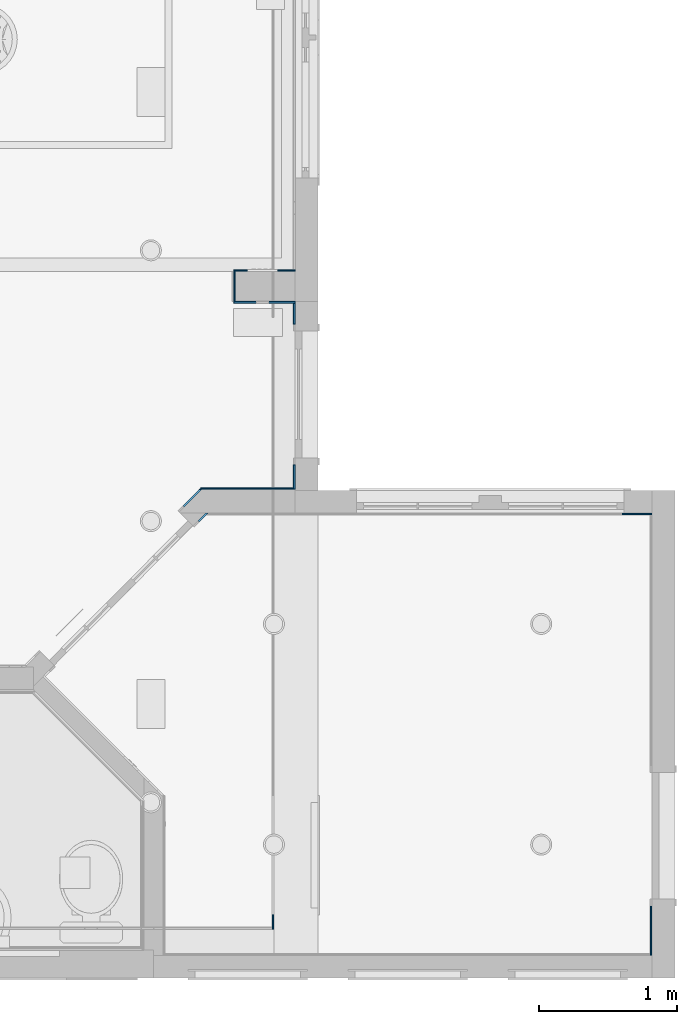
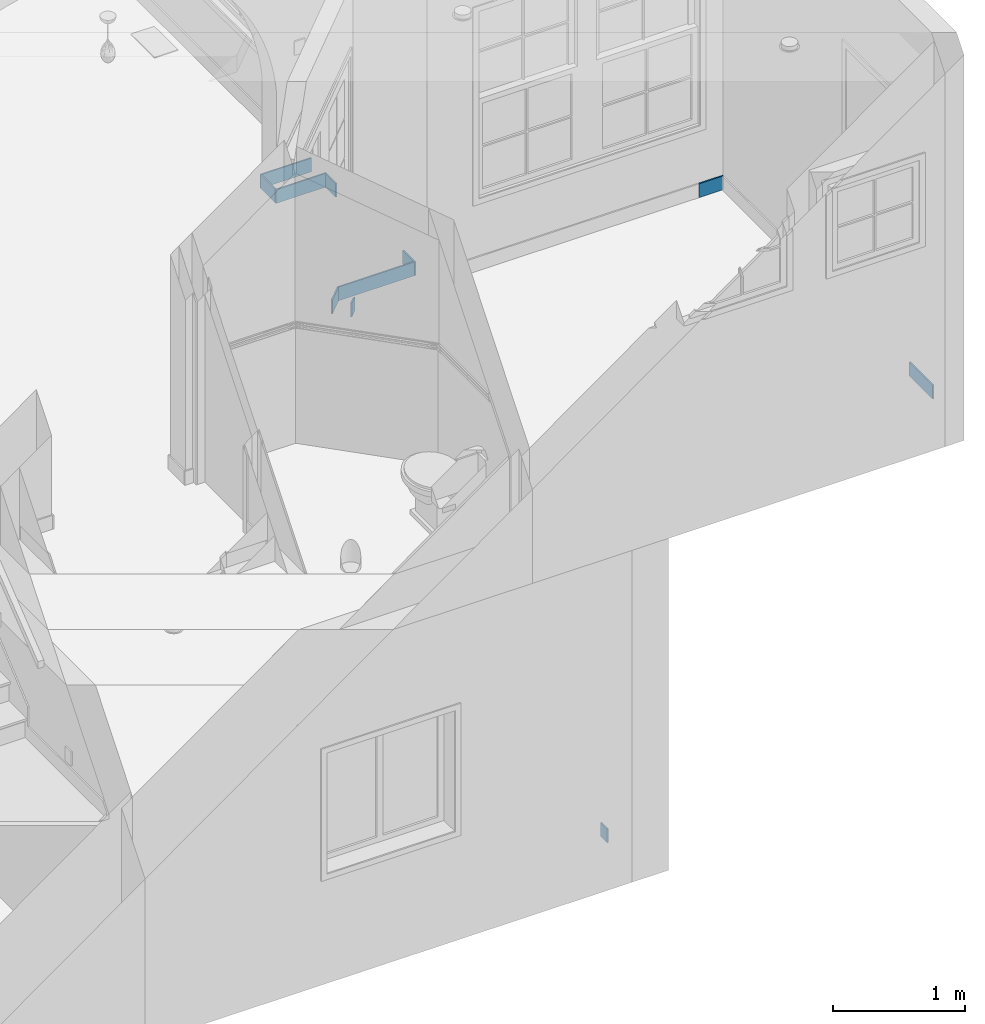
# One storey, part 29 of 81: 11 walls.
"""IFC2X3 building model written with IfcOpenShell, lengths in feet."""

import ifcopenshell
import ifcopenshell.guid

model = None  # the IFC model being written
_history = None  # IfcOwnerHistory: only IFC2X3 demands one
_inside = {}  # id of a spatial element -> (the spatial element, [elements in it])
_under = {}  # id of a project, library or spatial element -> (it, [spatial elements below it])
_declared = {}  # id of a project -> (the project, [libraries it declares])
_typed = {}  # id of a type object -> (the type object, [elements of that type])
_made_of = {}  # id of a material, layer set ... -> (it, [elements and type objects made of it])


def new_model(schema):
    """Start an empty IFC model of exactly this schema.

    Asked for "IFC4X3", IfcOpenShell would pick the latest addendum, in which some entities
    have other attributes; the version numbers below select the first issue.
    IFC2X3 requires an IfcOwnerHistory on every rooted entity: one is made here for all.
    """
    global model, _history
    if schema == "IFC4X3":
        model = ifcopenshell.file(schema_version=(4, 3, 0, 0))
    else:
        model = ifcopenshell.file(schema=schema)
    _inside.clear()
    _under.clear()
    _declared.clear()
    _typed.clear()
    _made_of.clear()
    _history = None
    if model.schema == "IFC2X3":
        org = make("IfcOrganization", Name="unknown")
        user = make(
            "IfcPersonAndOrganization",
            ThePerson=make("IfcPerson", FamilyName="unknown"),
            TheOrganization=org,
        )
        app = make(
            "IfcApplication",
            ApplicationDeveloper=org,
            Version="unknown",
            ApplicationFullName="unknown",
            ApplicationIdentifier="unknown",
        )
        _history = make(
            "IfcOwnerHistory",
            OwningUser=user,
            OwningApplication=app,
            ChangeAction="ADDED",
            CreationDate=0,
        )
    return model


def make(cls, **values):
    """One entity of the class cls with the attributes given. An attribute that is None is left unset."""
    return model.create_entity(
        cls, **{name: value for name, value in values.items() if value is not None}
    )


def entity(cls, *values):
    """Any entity or typed value of the class cls, its attributes in the order of the schema. None: left unset."""
    e = model.create_entity(cls)
    for i, value in enumerate(values):
        if value is not None:
            e[i] = value
    return e


def rooted(cls, **values):
    """An entity with a GlobalId (a new one), such as an element, a storey or a relation."""
    return make(cls, GlobalId=ifcopenshell.guid.new(), OwnerHistory=_history, **values)


def si_unit(unit_type, name, prefix=None):
    """IfcSIUnit, for example si_unit("LENGTHUNIT", "METRE", prefix="MILLI")."""
    return make("IfcSIUnit", UnitType=unit_type, Prefix=prefix, Name=name)


def converted_unit(unit_type, name, factor, base, dimensions=None, offset=None):
    """IfcConversionBasedUnit, such as the inch: factor (a typed value) times the base unit."""
    return make(
        "IfcConversionBasedUnit"
        if offset is None
        else "IfcConversionBasedUnitWithOffset",
        ConversionOffset=offset,
        Dimensions=None
        if dimensions is None
        else entity("IfcDimensionalExponents", *dimensions),
        UnitType=unit_type,
        Name=name,
        ConversionFactor=make(
            "IfcMeasureWithUnit", ValueComponent=factor, UnitComponent=base
        ),
    )


def derived_unit(unit_type, elements):
    """IfcDerivedUnit: a product of units, each with its exponent."""
    return make(
        "IfcDerivedUnit",
        Elements=[
            make("IfcDerivedUnitElement", Unit=unit, Exponent=power)
            for unit, power in elements
        ],
        UnitType=unit_type,
    )


def assignment(units):
    """IfcUnitAssignment: the units of a project."""
    return None if units is None else make("IfcUnitAssignment", Units=units)


def point(xyz):
    """IfcCartesianPoint."""
    return None if xyz is None else make("IfcCartesianPoint", Coordinates=xyz)


def direction(xyz):
    """IfcDirection."""
    return None if xyz is None else make("IfcDirection", DirectionRatios=xyz)


def frame(location, z_axis=None, x_axis=None):
    """IfcAxis2Placement3D, a coordinate frame: its origin and axes. An axis left out is left unset."""
    return make(
        "IfcAxis2Placement3D",
        Location=point(location),
        Axis=direction(z_axis),
        RefDirection=direction(x_axis),
    )


def frame_2d(location, x_axis=None):
    """IfcAxis2Placement2D, a coordinate frame in the plane: its origin and x axis."""
    return make(
        "IfcAxis2Placement2D", Location=point(location), RefDirection=direction(x_axis)
    )


def origin():
    """The frame at (0, 0, 0) with its axes left unset."""
    return frame((0.0, 0.0, 0.0))


def place(relative_to, where):
    """IfcLocalPlacement: puts the frame where relative to a parent placement (None: the world)."""
    return make(
        "IfcLocalPlacement", PlacementRelTo=relative_to, RelativePlacement=where
    )


def context(
    kind, dimensions, precision=None, world=None, true_north=None, identifier=None
):
    """IfcGeometricRepresentationContext, for example the 3D "Model" context."""
    return make(
        "IfcGeometricRepresentationContext",
        ContextIdentifier=identifier,
        ContextType=kind,
        CoordinateSpaceDimension=dimensions,
        Precision=precision,
        WorldCoordinateSystem=world,
        TrueNorth=true_north,
    )


def subcontext(parent, identifier, kind, view, scale=None):
    """IfcGeometricRepresentationSubContext, for example "Body" below "Model"."""
    return make(
        "IfcGeometricRepresentationSubContext",
        ContextIdentifier=identifier,
        ContextType=kind,
        ParentContext=parent,
        TargetScale=scale,
        TargetView=view,
    )


def project(units=None, contexts=None):
    """IfcProject with its units and contexts."""
    return rooted(
        "IfcProject",
        Name="project",
        RepresentationContexts=contexts,
        UnitsInContext=assignment(units),
    )


def spatial(cls, under=None, at=None, **own):
    """A site, building, storey or space (cls), placed at a placement, below another one or the project."""
    s = rooted(cls, ObjectPlacement=at, **own)
    if under is not None:
        _under.setdefault(under.id(), (under, []))[1].append(s)
    return s


def polyline(points):
    """IfcPolyline through the points."""
    return make("IfcPolyline", Points=[point(p) for p in points])


def profile(cls, at=None, kind="AREA", **sizes):
    """A parametric profile (cls). Its sizes go by their IFC names, for example OverallWidth=200.0."""
    return make(cls, ProfileType=kind, Position=at, **sizes)


def rectangle(**sizes):
    """IfcRectangleProfileDef."""
    return profile("IfcRectangleProfileDef", **sizes)


def outline(outer, holes=None, kind="AREA"):
    """IfcArbitraryClosedProfileDef: a profile drawn as a closed curve; with holes, ...WithVoids."""
    if holes is None:
        return make("IfcArbitraryClosedProfileDef", ProfileType=kind, OuterCurve=outer)
    return make(
        "IfcArbitraryProfileDefWithVoids",
        ProfileType=kind,
        OuterCurve=outer,
        InnerCurves=holes,
    )


def extrude(swept, where, along, depth):
    """IfcExtrudedAreaSolid: the profile swept, set in the frame where, extruded along a direction by depth."""
    return make(
        "IfcExtrudedAreaSolid",
        SweptArea=swept,
        Position=where,
        ExtrudedDirection=direction(along),
        Depth=depth,
    )


def shape(context_of_items, identifier, shape_type, items):
    """IfcShapeRepresentation: the items that make up one representation, for example the "Body"."""
    return make(
        "IfcShapeRepresentation",
        ContextOfItems=context_of_items,
        RepresentationIdentifier=identifier,
        RepresentationType=shape_type,
        Items=items,
    )


def material(Name=None, Category=None):
    """IfcMaterial."""
    return make("IfcMaterial", Name=Name, Category=Category)


def layer(
    of_material, thickness, ventilated=None, Name=None, Category=None, Priority=None
):
    """IfcMaterialLayer: one layer of a wall or slab, of a material (None: an air gap)."""
    return make(
        "IfcMaterialLayer",
        Material=of_material,
        LayerThickness=thickness,
        IsVentilated=ventilated,
        Name=Name,
        Category=Category,
        Priority=Priority,
    )


def layer_set(layers, Name=None):
    """IfcMaterialLayerSet."""
    return make("IfcMaterialLayerSet", MaterialLayers=layers, LayerSetName=Name)


def layer_usage(for_layer_set, set_direction, sense, offset, extent=None):
    """IfcMaterialLayerSetUsage: how a layer set lies in its element."""
    return make(
        "IfcMaterialLayerSetUsage",
        ForLayerSet=for_layer_set,
        LayerSetDirection=set_direction,
        DirectionSense=sense,
        OffsetFromReferenceLine=offset,
        ReferenceExtent=extent,
    )


def made_of(thing, what):
    """Note that an element or type object is made of a material, layer set ...; save() writes the relation."""
    if what is not None:
        _made_of.setdefault(what.id(), (what, []))[1].append(thing)
    return thing


def type_object(cls, material=None, **own):
    """A type object (cls), such as IfcWallType, which elements share."""
    return made_of(rooted(cls, **own), material)


def element(
    cls,
    number,
    at=None,
    inside=None,
    cuts=None,
    type_object=None,
    material=None,
    context=None,
    identifier="Body",
    shape_type=None,
    held_by="IfcProductDefinitionShape",
    body=None,
    shapes=None,
    **own,
):
    """One element of the class cls, such as IfcWall. Its Tag is "e" and its number.

    at: its placement. inside: the storey or other place that contains it. cuts: it is an
    opening in that element (IfcRelVoidsElement). A single representation is given by context,
    identifier, shape_type and body (its items); several are given by shapes. held_by: the class
    of the entity that holds the representations. save() writes the other relations.
    """
    e = rooted(cls, Tag="e%d" % number, ObjectPlacement=at, **own)
    if body is not None:
        shapes = [shape(context, identifier, shape_type, body)]
    if shapes is not None:
        e.Representation = make(held_by, Representations=shapes)
    if inside is not None:
        _inside.setdefault(inside.id(), (inside, []))[1].append(e)
    if cuts is not None:
        rooted(
            "IfcRelVoidsElement", RelatingBuildingElement=cuts, RelatedOpeningElement=e
        )
    if type_object is not None:
        _typed.setdefault(type_object.id(), (type_object, []))[1].append(e)
    return made_of(e, material)


def aggregate(whole, parts):
    """IfcRelAggregates: a whole, such as a stair, and the parts it consists of."""
    return rooted("IfcRelAggregates", RelatingObject=whole, RelatedObjects=parts)


def save(model, path):
    """Write the relations noted so far, then the file.

    IfcRelAggregates (storeys below a building ...), IfcRelContainedInSpatialStructure (elements
    in a storey), IfcRelDefinesByType, IfcRelAssociatesMaterial and IfcRelDeclares: one each for
    every whole, place, type object, material and project.
    """
    for whole, parts in _under.values():
        aggregate(whole, parts)
    for where, things in _inside.values():
        rooted(
            "IfcRelContainedInSpatialStructure",
            RelatedElements=things,
            RelatingStructure=where,
        )
    for kind, things in _typed.values():
        rooted("IfcRelDefinesByType", RelatedObjects=things, RelatingType=kind)
    for what, things in _made_of.values():
        rooted("IfcRelAssociatesMaterial", RelatedObjects=things, RelatingMaterial=what)
    for by, libraries in _declared.values():
        rooted("IfcRelDeclares", RelatingContext=by, RelatedDefinitions=libraries)
    model.write(path)


model = new_model("IFC2X3")

# Units and contexts
model_context = context("Model", 3, precision=0.0001, world=origin(), true_north=direction((6.12303176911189e-17, 1.0)))
body_context = subcontext(model_context, "Body", "Model", "MODEL_VIEW")
ifc_project = project(units=[converted_unit("LENGTHUNIT", "FOOT", entity("IfcRatioMeasure", 0.3048), si_unit("LENGTHUNIT", "METRE"), dimensions=[1, 0, 0, 0, 0, 0, 0]), converted_unit("AREAUNIT", "SQUARE FOOT", entity("IfcRatioMeasure", 0.09290304), si_unit("AREAUNIT", "SQUARE_METRE"), dimensions=[2, 0, 0, 0, 0, 0, 0]), converted_unit("VOLUMEUNIT", "CUBIC FOOT", entity("IfcRatioMeasure", 0.028316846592), si_unit("VOLUMEUNIT", "CUBIC_METRE"), dimensions=[3, 0, 0, 0, 0, 0, 0]), converted_unit("PLANEANGLEUNIT", "DEGREE", entity("IfcRatioMeasure", 0.0174532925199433), si_unit("PLANEANGLEUNIT", "RADIAN"), dimensions=[0, 0, 0, 0, 0, 0, 0]), si_unit("MASSUNIT", "GRAM", prefix="KILO"), derived_unit("MASSDENSITYUNIT", [(si_unit("MASSUNIT", "GRAM", prefix="KILO"), 1), (si_unit("LENGTHUNIT", "METRE"), -3)]), derived_unit("MOMENTOFINERTIAUNIT", [(si_unit("LENGTHUNIT", "METRE"), 4)]), si_unit("TIMEUNIT", "SECOND"), si_unit("FREQUENCYUNIT", "HERTZ"), si_unit("THERMODYNAMICTEMPERATUREUNIT", "DEGREE_CELSIUS"), derived_unit("THERMALTRANSMITTANCEUNIT", [(si_unit("MASSUNIT", "GRAM", prefix="KILO"), 1), (si_unit("THERMODYNAMICTEMPERATUREUNIT", "KELVIN"), -1), (si_unit("TIMEUNIT", "SECOND"), -3)]), derived_unit("VOLUMETRICFLOWRATEUNIT", [(si_unit("LENGTHUNIT", "METRE"), 3), (si_unit("TIMEUNIT", "SECOND"), -1)]), si_unit("ELECTRICCURRENTUNIT", "AMPERE"), si_unit("ELECTRICVOLTAGEUNIT", "VOLT"), si_unit("POWERUNIT", "WATT"), si_unit("FORCEUNIT", "NEWTON"), si_unit("ILLUMINANCEUNIT", "LUX"), si_unit("LUMINOUSFLUXUNIT", "LUMEN"), si_unit("LUMINOUSINTENSITYUNIT", "CANDELA"), derived_unit("USERDEFINED", [(si_unit("MASSUNIT", "GRAM", prefix="KILO"), -1), (si_unit("LENGTHUNIT", "METRE"), -2), (si_unit("TIMEUNIT", "SECOND"), 3), (si_unit("LUMINOUSFLUXUNIT", "LUMEN"), 1)]), derived_unit("LINEARVELOCITYUNIT", [(si_unit("LENGTHUNIT", "METRE"), 1), (si_unit("TIMEUNIT", "SECOND"), -1)]), si_unit("PRESSUREUNIT", "PASCAL"), derived_unit("USERDEFINED", [(si_unit("LENGTHUNIT", "METRE"), -2), (si_unit("MASSUNIT", "GRAM", prefix="KILO"), 1), (si_unit("TIMEUNIT", "SECOND"), -2)]), derived_unit("LINEARFORCEUNIT", [(si_unit("MASSUNIT", "GRAM", prefix="KILO"), 1), (si_unit("LENGTHUNIT", "METRE"), 1), (si_unit("TIMEUNIT", "SECOND"), -2), (si_unit("LENGTHUNIT", "METRE"), -1)]), derived_unit("PLANARFORCEUNIT", [(si_unit("MASSUNIT", "GRAM", prefix="KILO"), 1), (si_unit("LENGTHUNIT", "METRE"), 1), (si_unit("TIMEUNIT", "SECOND"), -2), (si_unit("LENGTHUNIT", "METRE"), -2)])], contexts=[model_context])

# Site, building, storey
site_placement = place(None, origin())
site = spatial("IfcSite", under=ifc_project, at=site_placement, Name="Default", CompositionType="ELEMENT")
building_placement = place(site_placement, origin())
building = spatial("IfcBuilding", under=site, at=building_placement, CompositionType="ELEMENT")
storey_placement = place(building_placement, origin())
storey = spatial("IfcBuildingStorey", under=building, at=storey_placement, Name="First floor", CompositionType="ELEMENT", Elevation=0.0)

# Walls
ifc_material = material(Name="Default New Material")
ifc_layer = layer(ifc_material, 0.0416666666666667)
ifc_layer_set = layer_set([ifc_layer], Name="Basic Wall:Wall Border_T1")
ifc_layer_usage_1 = layer_usage(ifc_layer_set, "AXIS2", "POSITIVE", -0.0208333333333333)
wall_type = type_object("IfcWallType", Name="Basic Wall:Wall Border_T1", PredefinedType="STANDARD", material=ifc_layer_set)
wall_1_placement = place(storey_placement, frame((34.6041666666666, 1.5, 0.0), z_axis=(0.0, 0.0, 1.0), x_axis=(0.0, -1.0, 0.0)))
element("IfcWallStandardCase", 1, at=wall_1_placement, inside=storey, type_object=wall_type, material=ifc_layer_usage_1, Name="Basic Wall:Wall Border_T1", ObjectType="Basic Wall:Wall Border_T1", context=body_context, shape_type="SweptSolid", body=[
    extrude(rectangle(XDim=0.333333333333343, YDim=0.0416666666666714, at=frame_2d((0.166666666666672, 0.0), x_axis=(-1.0, 0.0))), origin(), (0.0, 0.0, 1.0), 0.416666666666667),
])
ifc_layer_usage_2 = layer_usage(ifc_layer_set, "AXIS2", "POSITIVE", -0.0208333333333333)
wall_2_placement = place(storey_placement, frame((35.125, 16.7708336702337, 10.6666666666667), z_axis=(0.0, 0.0, 1.0), x_axis=(-1.0, 0.0, 0.0)))
element("IfcWallStandardCase", 2, at=wall_2_placement, inside=storey, type_object=wall_type, material=ifc_layer_usage_2, Name="Basic Wall:Wall Border_T1", ObjectType="Basic Wall:Wall Border_T1", context=body_context, shape_type="SweptSolid", body=[
    extrude(rectangle(XDim=1.45783206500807, YDim=0.0416666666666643, at=frame_2d((0.728916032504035, 5.55111512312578e-17), x_axis=(-1.0, 0.0))), origin(), (0.0, 0.0, 1.0), 0.416666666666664),
])
ifc_layer_usage_3 = layer_usage(ifc_layer_set, "AXIS2", "POSITIVE", -0.0208333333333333)
wall_3_placement = place(storey_placement, frame((33.667167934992, 16.0208336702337, 10.6666666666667)))
element("IfcWallStandardCase", 3, at=wall_3_placement, inside=storey, type_object=wall_type, material=ifc_layer_usage_3, Name="Basic Wall:Wall Border_T1", ObjectType="Basic Wall:Wall Border_T1", context=body_context, shape_type="SweptSolid", body=[
    extrude(rectangle(XDim=1.45783206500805, YDim=0.0416666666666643, at=frame_2d((0.728916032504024, 0.0), x_axis=(-1.0, 0.0))), origin(), (0.0, 0.0, 1.0), 0.416666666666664),
])
ifc_layer_usage_4 = layer_usage(ifc_layer_set, "AXIS2", "POSITIVE", -0.0208333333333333)
wall_4_placement = place(storey_placement, frame((35.1041666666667, 16.0000003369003, 10.6666666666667), z_axis=(0.0, 0.0, 1.0), x_axis=(0.0, -1.0, 0.0)))
element("IfcWallStandardCase", 4, at=wall_4_placement, inside=storey, type_object=wall_type, material=ifc_layer_usage_4, Name="Basic Wall:Wall Border_T1", ObjectType="Basic Wall:Wall Border_T1", context=body_context, shape_type="SweptSolid", body=[
    extrude(rectangle(XDim=0.500000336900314, YDim=0.0416666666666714, at=frame_2d((0.250000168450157, 0.0), x_axis=(-1.0, 0.0))), origin(), (0.0, 0.0, 1.0), 0.416666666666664),
])
ifc_layer_usage_5 = layer_usage(ifc_layer_set, "AXIS2", "POSITIVE", -0.0208333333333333)
wall_5_placement = place(storey_placement, frame((35.1041666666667, 12.1666666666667, 10.6666666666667), z_axis=(0.0, 0.0, 1.0), x_axis=(0.0, -1.0, 0.0)))
element("IfcWallStandardCase", 5, at=wall_5_placement, inside=storey, type_object=wall_type, material=ifc_layer_usage_5, Name="Basic Wall:Wall Border_T1", ObjectType="Basic Wall:Wall Border_T1", context=body_context, shape_type="SweptSolid", body=[
    extrude(rectangle(XDim=0.5833333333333, YDim=0.0416666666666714, at=frame_2d((0.29166666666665, 0.0), x_axis=(-1.0, 0.0))), origin(), (0.0, 0.0, 1.0), 0.416666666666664),
])
ifc_layer_usage_6 = layer_usage(ifc_layer_set, "AXIS2", "POSITIVE", -0.0208333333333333)
wall_6_placement = place(storey_placement, frame((35.0833333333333, 11.6041666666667, 10.6666666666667), z_axis=(0.0, 0.0, 1.0), x_axis=(-1.0, 0.0, 0.0)))
element("IfcWallStandardCase", 6, at=wall_6_placement, inside=storey, type_object=wall_type, material=ifc_layer_usage_6, Name="Basic Wall:Wall Border_T1", ObjectType="Basic Wall:Wall Border_T1", context=body_context, shape_type="SweptSolid", body=[
    extrude(outline(polyline([(2.18770589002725, -0.0208333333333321), (2.22913488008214, 0.0208333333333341), (2.17037713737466, 0.0208333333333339), (0.0, 0.0208333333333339), (0.0, -0.0208333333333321), (2.18770589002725, -0.0208333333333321)])), origin(), (0.0, 0.0, 1.0), 0.416666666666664),
])
ifc_layer_usage_7 = layer_usage(ifc_layer_set, "AXIS2", "POSITIVE", -0.0208333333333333)
wall_7_placement = place(storey_placement, frame((32.8981827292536, 11.5980225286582, 10.6666666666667), z_axis=(0.0, 0.0, 1.0), x_axis=(-0.705081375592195, -0.709126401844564, 0.0)))
element("IfcWallStandardCase", 7, at=wall_7_placement, inside=storey, type_object=wall_type, material=ifc_layer_usage_7, Name="Basic Wall:Wall Border_T1", ObjectType="Basic Wall:Wall Border_T1", context=body_context, shape_type="SweptSolid", body=[
    extrude(outline(polyline([(0.587624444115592, -0.0208333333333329), (0.587624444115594, 0.0208333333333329), (0.0, 0.0208333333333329), (0.0414289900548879, -0.0208333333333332), (0.587624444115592, -0.0208333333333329)])), origin(), (0.0, 0.0, 1.0), 0.416666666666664),
])
ifc_layer_usage_8 = layer_usage(ifc_layer_set, "AXIS2", "POSITIVE", -0.0208333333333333)
wall_8_placement = place(storey_placement, frame((32.8385031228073, 10.8288625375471, 10.6666666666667), z_axis=(0.0, 0.0, 1.0), x_axis=(0.705081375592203, 0.709126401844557, 0.0)))
element("IfcWallStandardCase", 8, at=wall_8_placement, inside=storey, type_object=wall_type, material=ifc_layer_usage_8, Name="Basic Wall:Wall Border_T1", ObjectType="Basic Wall:Wall Border_T1", context=body_context, shape_type="SweptSolid", body=[
    extrude(outline(polyline([(0.291428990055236, -0.0208333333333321), (0.250000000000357, 0.0208333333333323), (0.0, 0.0208333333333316), (0.0, -0.0208333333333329), (0.232671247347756, -0.0208333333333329), (0.291428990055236, -0.0208333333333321)])), origin(), (0.0, 0.0, 1.0), 0.416666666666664),
])
ifc_layer_usage_9 = layer_usage(ifc_layer_set, "AXIS2", "POSITIVE", -0.0208333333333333)
wall_9_placement = place(storey_placement, frame((42.882234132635, 11.0, 10.6666666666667)))
element("IfcWallStandardCase", 9, at=wall_9_placement, inside=storey, type_object=wall_type, material=ifc_layer_usage_9, Name="Basic Wall:Wall Border_T1", ObjectType="Basic Wall:Wall Border_T1", context=body_context, shape_type="SweptSolid", body=[
    extrude(rectangle(XDim=0.701099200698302, YDim=0.0416666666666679, at=frame_2d((0.350549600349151, -2.02962646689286e-16), x_axis=(-1.0, 0.0))), origin(), (0.0, 0.0, 1.0), 0.416666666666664),
])
ifc_layer_usage_10 = layer_usage(ifc_layer_set, "AXIS2", "POSITIVE", -0.0208333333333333)
wall_10_placement = place(storey_placement, frame((43.5625, 1.70833333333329, 10.6666666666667), z_axis=(0.0, 0.0, 1.0), x_axis=(0.0, -1.0, 0.0)))
element("IfcWallStandardCase", 10, at=wall_10_placement, inside=storey, type_object=wall_type, material=ifc_layer_usage_10, Name="Basic Wall:Wall Border_T1", ObjectType="Basic Wall:Wall Border_T1", context=body_context, shape_type="SweptSolid", body=[
    extrude(rectangle(XDim=1.16666666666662, YDim=0.0416666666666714, at=frame_2d((0.583333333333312, 0.0), x_axis=(-1.0, 0.0))), origin(), (0.0, 0.0, 1.0), 0.416666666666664),
])
ifc_layer_usage_11 = layer_usage(ifc_layer_set, "AXIS2", "NEGATIVE", 0.0208333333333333)
wall_11_placement = place(storey_placement, frame((33.6880012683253, 16.7500003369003, 10.6666666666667), z_axis=(0.0, 0.0, 1.0), x_axis=(0.0, -1.0, 0.0)))
element("IfcWallStandardCase", 11, at=wall_11_placement, inside=storey, type_object=wall_type, material=ifc_layer_usage_11, Name="Basic Wall:Wall Border_T1", ObjectType="Basic Wall:Wall Border_T1", context=body_context, shape_type="SweptSolid", body=[
    extrude(rectangle(XDim=0.708333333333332, YDim=0.0416666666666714, at=frame_2d((0.354166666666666, 1.50920942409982e-15), x_axis=(-1.0, 0.0))), origin(), (0.0, 0.0, 1.0), 0.416666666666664),
])

save(model, "model.ifc")
